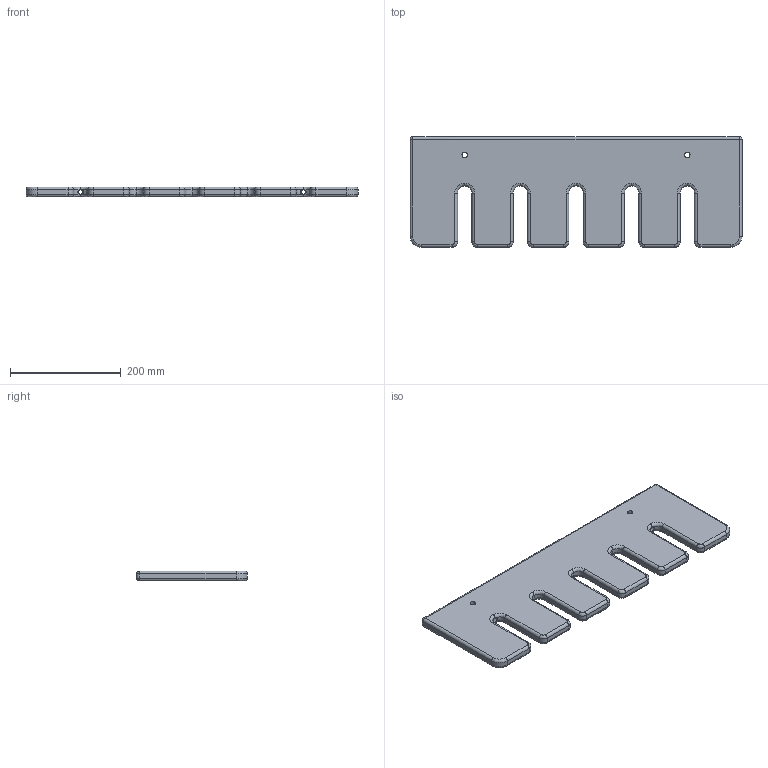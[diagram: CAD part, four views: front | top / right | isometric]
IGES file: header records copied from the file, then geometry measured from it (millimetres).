
Start section: 3D InterOp IGES (Version 23 0 1), Spatial Corp. Copyright (c) 1999-2007.
Global section: file name: Montant 600.igs; native system: Spatial Corp.; preprocessor: 3D InterOp GENERIC/IGES 3.0; author: Noname; organization: Noname; date: 20130608.084809; units: millimetre
Bounding box: 600 x 200 x 18 mm (x, y, z)
Surface area: 251814.5 mm2 (no closed solid volume)
Topology: 0 solids, 0 shells, 146 faces, 714 edges, 710 vertices
Faces by surface type: revolution 123, extrusion 23
